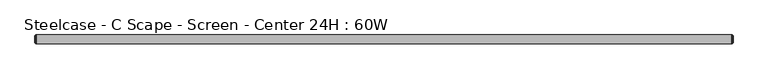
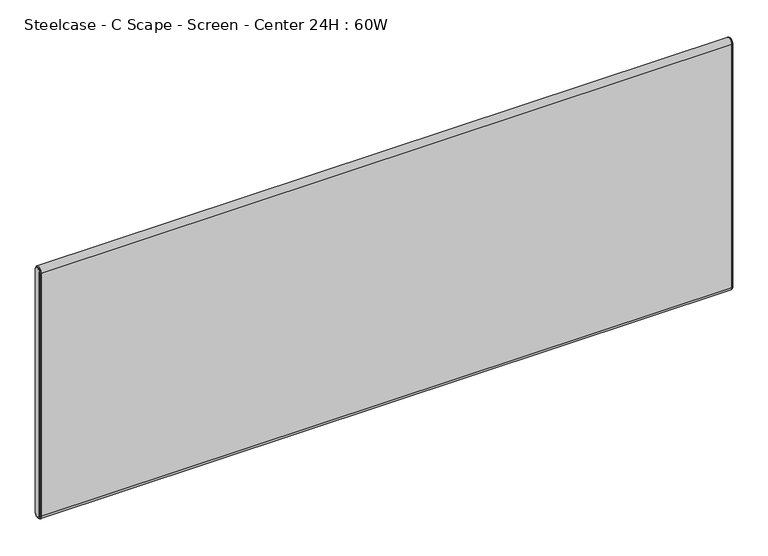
"""IFC4 building model written with IfcOpenShell, lengths in millimetres: furniture geometry, Steelcase - C Scape - Screen - Center 24H : 60W."""

from ifc_helpers import new_model, si_unit, point, frame, frame_2d, origin, place, context, project, spatial, polyline, circle_curve, ellipse_curve, trimmed, segment, composite_curve, outline, extrude, source, transform, mapped, element, save
from ifc_brep_helpers import plane_surface, cylinder_surface, revolved_surface, advanced_brep


def steelcase_c_scape_screen_center_24h_60w_48d44867(model_context):
    return source(origin(), model_context, "Body", "SolidModel", [
        advanced_brep(
        [(1520.4486613, -9.525, 1298.067), (1520.4486613, 9.525, 1298.067), (1520.4486613, 9.525, 732.9169758), (1520.4486613, -9.525, 732.9169758), (1523.2426613, 7.4929583, 1298.067), (1523.2426613, -7.4929583, 1298.067), (1523.2426613, -7.4929583, 732.9169758), (1523.2426613, 7.4929583, 732.9169758), (1522.7346545, -8.0009651, 1298.067), (1522.7346545, 8.0009651, 1298.067), (1521.4646613, 8.0009651, 1298.067), (1521.4646613, -8.0009651, 1298.067), (1521.4646613, -8.8204932, 1298.067), (1521.4646613, 8.8204932, 1298.067), (1521.4646613, -8.0009651, 732.9169758), (1522.7346545, -8.0009651, 732.9169758), (1521.4646613, -8.8204932, 732.9169758), (1521.4646613, 8.0009651, 732.9169758), (1522.7346545, 8.0009651, 732.9169758), (1521.4646613, 8.8204932, 732.9169758)],
        [
            (0, 1, circle_curve(frame((1520.4486613, 0.0, 1298.067), z_axis=(-1.0, 0.0, 0.0), x_axis=(0.0, 1.0, 0.0)), 9.525)),
            (1, 2),
            (2, 3, circle_curve(frame((1520.4486613, 0.0, 732.9169758), z_axis=(-1.0, 0.0, 0.0), x_axis=(0.0, -1.0, 0.0)), 9.525)),
            (3, 0),
            (4, 5, circle_curve(frame((1523.2426613, 0.0, 1298.067), z_axis=(1.0, 0.0, 0.0), x_axis=(0.0, 1.0, 0.0)), 7.4929583)),
            (5, 6),
            (6, 7, circle_curve(frame((1523.2426613, 0.0, 732.9169758), z_axis=(1.0, 0.0, 0.0), x_axis=(0.0, -1.0, 0.0)), 7.4929583)),
            (7, 4),
            (8, 9, circle_curve(frame((1522.7346545, 0.0, 1298.067), z_axis=(-1.0, 0.0, 0.0), x_axis=(0.0, 1.0, 0.0)), 8.0009651)),
            (9, 10),
            (10, 11, circle_curve(frame((1521.4646613, 0.0, 1298.067), z_axis=(1.0, 0.0, 0.0), x_axis=(0.0, 1.0, 0.0)), 8.0009651)),
            (11, 8),
            (8, 5, circle_curve(frame((1522.7346545, -7.4929583, 1298.067), z_axis=(0.0, 0.0, 1.0), x_axis=(0.0, -1.0, 0.0)), 0.5080068)),
            (4, 9, circle_curve(frame((1522.7346545, 7.4929583, 1298.067), z_axis=(0.0, 0.0, 1.0), x_axis=(0.0, 1.0, 0.0)), 0.5080068)),
            (12, 13, circle_curve(frame((1521.4646613, 0.0, 1298.067), z_axis=(-1.0, 0.0, 0.0), x_axis=(0.0, 1.0, 0.0)), 8.8204932)),
            (13, 1, circle_curve(frame((1520.3806211, 8.3420139, 1298.067), z_axis=(0.0, 0.0, 1.0), x_axis=(0.0, 1.0, 0.0)), 1.1849411)),
            (0, 12, circle_curve(frame((1520.3806211, -8.3420139, 1298.067), z_axis=(0.0, 0.0, 1.0), x_axis=(0.0, -1.0, 0.0)), 1.1849411)),
            (11, 14),
            (14, 15),
            (15, 8),
            (15, 6, circle_curve(frame((1522.7346545, -7.4929583, 732.9169758), z_axis=(0.0, 0.0, 1.0), x_axis=(0.0, -1.0, 0.0)), 0.5080068)),
            (3, 16, circle_curve(frame((1520.3806211, -8.3420139, 732.9169758), z_axis=(0.0, 0.0, 1.0), x_axis=(0.0, -1.0, 0.0)), 1.1849411)),
            (16, 12),
            (14, 17, circle_curve(frame((1521.4646613, 0.0, 732.9169758), z_axis=(1.0, 0.0, 0.0), x_axis=(0.0, -1.0, 0.0)), 8.0009651)),
            (17, 18),
            (18, 15, circle_curve(frame((1522.7346545, 0.0, 732.9169758), z_axis=(-1.0, 0.0, 0.0), x_axis=(0.0, -1.0, 0.0)), 8.0009651)),
            (18, 7, circle_curve(frame((1522.7346545, 7.4929583, 732.9169758), z_axis=(0.0, 0.0, -1.0), x_axis=(0.0, 1.0, 0.0)), 0.5080068)),
            (2, 19, circle_curve(frame((1520.3806211, 8.3420139, 732.9169758), z_axis=(0.0, 0.0, -1.0), x_axis=(0.0, 1.0, 0.0)), 1.1849411)),
            (19, 16, circle_curve(frame((1521.4646613, 0.0, 732.9169758), z_axis=(-1.0, 0.0, 0.0), x_axis=(0.0, -1.0, 0.0)), 8.8204932)),
            (9, 18),
            (17, 10),
            (13, 19),
        ],
        [
            plane_surface(frame((1520.4486613, -6.3509705, 1298.067), z_axis=(-1.0, 0.0, 0.0), x_axis=(0.0, 0.0, 1.0))),
            plane_surface(frame((1523.2426613, -6.3509705, 1298.067), z_axis=(1.0, 0.0, 0.0), x_axis=(0.0, 0.0, -1.0))),
            cylinder_surface(frame((1520.4486613, 0.0, 1298.067), z_axis=(1.0, 0.0, 0.0), x_axis=(0.0, 1.0, 0.0)), 8.0009651),
            revolved_surface(trimmed(ellipse_curve(frame((1522.7346545, 7.4929583, 1298.067), z_axis=(0.0, 0.0, -1.0), x_axis=(0.0, 1.0, 0.0)), 0.5080068, 0.5080068), [point((1522.7346545, 8.0009651, 1298.067))], [point((1523.2426613, 7.4929583, 1298.067))], True, "CARTESIAN"), (1520.4486613, 0.0, 1298.067), (1.0, 0.0, 0.0)),
            revolved_surface(trimmed(ellipse_curve(frame((1520.3806211, 8.3420139, 1298.067), z_axis=(0.0, 0.0, -1.0), x_axis=(0.0, 1.0, 0.0)), 1.1849411, 1.1849411), [point((1520.4486613, 9.525, 1298.067))], [point((1521.4646613, 8.8204932, 1298.067))], True, "CARTESIAN"), (1520.4486613, 0.0, 1298.067), (1.0, 0.0, 0.0)),
            plane_surface(frame((1521.4646613, -8.0009651, 1298.067), z_axis=(0.0, -1.0, 0.0), x_axis=(0.0, 0.0, -1.0))),
            cylinder_surface(frame((1522.7346545, -7.4929583, 1298.067), z_axis=(0.0, 0.0, 1.0), x_axis=(0.0, -1.0, 0.0)), 0.5080068),
            cylinder_surface(frame((1520.3806211, -8.3420139, 1298.067), z_axis=(0.0, 0.0, 1.0), x_axis=(0.0, -1.0, 0.0)), 1.1849411),
            cylinder_surface(frame((1520.4486613, 0.0, 732.9169758), z_axis=(1.0, 0.0, 0.0), x_axis=(0.0, -1.0, 0.0)), 8.0009651),
            revolved_surface(trimmed(ellipse_curve(frame((1522.7346545, -7.4929583, 732.9169758), z_axis=(0.0, 0.0, 1.0), x_axis=(0.0, -1.0, 0.0)), 0.5080068, 0.5080068), [point((1522.7346545, -8.0009651, 732.9169758))], [point((1523.2426613, -7.4929583, 732.9169758))], True, "CARTESIAN"), (1520.4486613, 0.0, 732.9169758), (1.0, 0.0, 0.0)),
            revolved_surface(trimmed(ellipse_curve(frame((1520.3806211, -8.3420139, 732.9169758), z_axis=(0.0, 0.0, 1.0), x_axis=(0.0, -1.0, 0.0)), 1.1849411, 1.1849411), [point((1520.4486613, -9.525, 732.9169758))], [point((1521.4646613, -8.8204932, 732.9169758))], True, "CARTESIAN"), (1520.4486613, 0.0, 732.9169758), (1.0, 0.0, 0.0)),
            plane_surface(frame((1521.4646613, 8.0009651, 732.9169758), z_axis=(0.0, 1.0, 0.0), x_axis=(0.0, 0.0, 1.0))),
            cylinder_surface(frame((1522.7346545, 7.4929583, 732.9169758), z_axis=(0.0, 0.0, -1.0), x_axis=(0.0, 1.0, 0.0)), 0.5080068),
            cylinder_surface(frame((1520.3806211, 8.3420139, 732.9169758), z_axis=(0.0, 0.0, -1.0), x_axis=(0.0, 1.0, 0.0)), 1.1849411),
            plane_surface(frame((1521.4646613, 8.8204932, 732.9169758), z_axis=(1.0, 0.0, 0.0), x_axis=(0.0, 0.0, 1.0))),
        ],
        [
            (0, [[1, 2, 3, 4]]),
            (1, [[5, 6, 7, 8]]),
            (2, [[9, 10, 11, 12]]),
            (3, [[-9, 13, -5, 14]]),
            (4, [[15, 16, -1, 17]]),
            (5, [[-12, 18, 19, 20]]),
            (6, [[-13, -20, 21, -6]]),
            (7, [[-17, -4, 22, 23]]),
            (8, [[-19, 24, 25, 26]]),
            (9, [[-21, -26, 27, -7]]),
            (10, [[-22, -3, 28, 29]]),
            (11, [[-10, 30, -25, 31]]),
            (12, [[-14, -8, -27, -30]]),
            (13, [[-16, 32, -28, -2]]),
            (14, [[-15, -23, -29, -32], [-11, -31, -24, -18]]),
        ],
    ),
        advanced_brep(
        [(2.7940155, 9.525, 1298.067), (2.7940155, -9.525, 1298.067), (2.7940155, -9.525, 732.917), (2.7940155, 9.525, 732.917), (0.0, -7.4929583, 1298.067), (0.0, 7.4929583, 1298.067), (0.0, 7.4929583, 732.917), (0.0, -7.4929583, 732.917), (1.778, 8.8204932, 1298.067), (1.778, -8.8204932, 1298.067), (0.5080068, -8.0009651, 1298.067), (0.5080068, 8.0009651, 1298.067), (1.778, -8.0009651, 1298.067), (1.778, 8.0009651, 1298.067), (1.778, -8.8204932, 732.917), (0.5080068, -8.0009651, 732.917), (1.778, -8.0009651, 732.917), (1.778, 8.8204932, 732.917), (0.5080068, 8.0009651, 732.917), (1.778, 8.0009651, 732.917)],
        [
            (0, 1, circle_curve(frame((2.7940155, 0.0, 1298.067), z_axis=(1.0, 0.0, 0.0), x_axis=(0.0, 1.0, 0.0)), 9.525)),
            (1, 2),
            (2, 3, circle_curve(frame((2.7940155, 0.0, 732.917), z_axis=(1.0, 0.0, 0.0), x_axis=(0.0, -1.0, 0.0)), 9.525)),
            (3, 0),
            (4, 5, circle_curve(frame((0.0, 0.0, 1298.067), z_axis=(-1.0, 0.0, 0.0), x_axis=(0.0, 1.0, 0.0)), 7.4929583)),
            (5, 6),
            (6, 7, circle_curve(frame((0.0, 0.0, 732.917), z_axis=(-1.0, 0.0, 0.0), x_axis=(0.0, -1.0, 0.0)), 7.4929583)),
            (7, 4),
            (0, 8, circle_curve(frame((2.8620402, 8.3420139, 1298.067), z_axis=(0.0, 0.0, 1.0), x_axis=(0.0, -1.0, 0.0)), 1.1849411)),
            (8, 9, circle_curve(frame((1.778, 0.0, 1298.067), z_axis=(1.0, 0.0, 0.0), x_axis=(0.0, 1.0, 0.0)), 8.8204932)),
            (9, 1, circle_curve(frame((2.8620402, -8.3420139, 1298.067), z_axis=(0.0, 0.0, 1.0), x_axis=(0.0, 1.0, 0.0)), 1.1849411)),
            (10, 11, circle_curve(frame((0.5080068, 0.0, 1298.067), z_axis=(-1.0, 0.0, 0.0), x_axis=(0.0, 1.0, 0.0)), 8.0009651)),
            (11, 5, circle_curve(frame((0.5080068, 7.4929583, 1298.067), z_axis=(0.0, 0.0, 1.0), x_axis=(0.0, -1.0, 0.0)), 0.5080068)),
            (4, 10, circle_curve(frame((0.5080068, -7.4929583, 1298.067), z_axis=(0.0, 0.0, 1.0), x_axis=(0.0, 1.0, 0.0)), 0.5080068)),
            (10, 12),
            (12, 13, circle_curve(frame((1.778, 0.0, 1298.067), z_axis=(-1.0, 0.0, 0.0), x_axis=(0.0, 1.0, 0.0)), 8.0009651)),
            (13, 11),
            (9, 14),
            (14, 2, circle_curve(frame((2.8620402, -8.3420139, 732.917), z_axis=(0.0, 0.0, 1.0), x_axis=(0.0, 1.0, 0.0)), 1.1849411)),
            (7, 15, circle_curve(frame((0.5080068, -7.4929583, 732.917), z_axis=(0.0, 0.0, 1.0), x_axis=(0.0, 1.0, 0.0)), 0.5080068)),
            (15, 10),
            (15, 16),
            (16, 12),
            (14, 17, circle_curve(frame((1.778, 0.0, 732.917), z_axis=(1.0, 0.0, 0.0), x_axis=(0.0, -1.0, 0.0)), 8.8204932)),
            (17, 3, circle_curve(frame((2.8620402, 8.3420139, 732.917), z_axis=(0.0, 0.0, -1.0), x_axis=(0.0, -1.0, 0.0)), 1.1849411)),
            (6, 18, circle_curve(frame((0.5080068, 7.4929583, 732.917), z_axis=(0.0, 0.0, -1.0), x_axis=(0.0, -1.0, 0.0)), 0.5080068)),
            (18, 15, circle_curve(frame((0.5080068, 0.0, 732.917), z_axis=(-1.0, 0.0, 0.0), x_axis=(0.0, -1.0, 0.0)), 8.0009651)),
            (18, 19),
            (19, 16, circle_curve(frame((1.778, 0.0, 732.917), z_axis=(-1.0, 0.0, 0.0), x_axis=(0.0, -1.0, 0.0)), 8.0009651)),
            (8, 17),
            (19, 13),
            (11, 18),
        ],
        [
            plane_surface(frame((2.7940155, -6.3509705, 1298.067), z_axis=(1.0, 0.0, 0.0), x_axis=(0.0, 0.0, -1.0))),
            plane_surface(frame((0.0, -6.3509705, 1298.067), z_axis=(-1.0, 0.0, 0.0), x_axis=(0.0, 0.0, 1.0))),
            revolved_surface(trimmed(ellipse_curve(frame((2.8620402, 8.3420139, 1298.067), z_axis=(0.0, 0.0, -1.0), x_axis=(0.0, -1.0, 0.0)), 1.1849411, 1.1849411), [point((1.778, 8.8204932, 1298.067))], [point((2.794, 9.525, 1298.067))], True, "CARTESIAN"), (2.794, 0.0, 1298.067), (1.0, 0.0, 0.0)),
            revolved_surface(trimmed(ellipse_curve(frame((0.5080068, 7.4929583, 1298.067), z_axis=(0.0, 0.0, -1.0), x_axis=(0.0, -1.0, 0.0)), 0.5080068, 0.5080068), [point((0.0, 7.4929583, 1298.067))], [point((0.5080068, 8.0009651, 1298.067))], True, "CARTESIAN"), (2.794, 0.0, 1298.067), (1.0, 0.0, 0.0)),
            cylinder_surface(frame((2.794, 0.0, 1298.067), z_axis=(1.0, 0.0, 0.0), x_axis=(0.0, 1.0, 0.0)), 8.0009651),
            cylinder_surface(frame((2.8620402, -8.3420139, 1298.067), z_axis=(0.0, 0.0, 1.0), x_axis=(0.0, 1.0, 0.0)), 1.1849411),
            cylinder_surface(frame((0.5080068, -7.4929583, 1298.067), z_axis=(0.0, 0.0, 1.0), x_axis=(0.0, 1.0, 0.0)), 0.5080068),
            plane_surface(frame((0.5080068, -8.0009651, 1298.067), z_axis=(0.0, -1.0, 0.0), x_axis=(0.0, 0.0, -1.0))),
            revolved_surface(trimmed(ellipse_curve(frame((2.8620402, -8.3420139, 732.917), z_axis=(0.0, 0.0, 1.0), x_axis=(0.0, 1.0, 0.0)), 1.1849411, 1.1849411), [point((1.778, -8.8204932, 732.917))], [point((2.794, -9.525, 732.917))], True, "CARTESIAN"), (2.794, 0.0, 732.917), (1.0, 0.0, 0.0)),
            revolved_surface(trimmed(ellipse_curve(frame((0.5080068, -7.4929583, 732.917), z_axis=(0.0, 0.0, 1.0), x_axis=(0.0, 1.0, 0.0)), 0.5080068, 0.5080068), [point((0.0, -7.4929583, 732.917))], [point((0.5080068, -8.0009651, 732.917))], True, "CARTESIAN"), (2.794, 0.0, 732.917), (1.0, 0.0, 0.0)),
            cylinder_surface(frame((2.794, 0.0, 732.917), z_axis=(1.0, 0.0, 0.0), x_axis=(0.0, -1.0, 0.0)), 8.0009651),
            plane_surface(frame((1.778, 8.0009651, 732.917), z_axis=(-1.0, 0.0, 0.0), x_axis=(0.0, 0.0, 1.0))),
            cylinder_surface(frame((2.8620402, 8.3420139, 732.917), z_axis=(0.0, 0.0, -1.0), x_axis=(0.0, -1.0, 0.0)), 1.1849411),
            cylinder_surface(frame((0.5080068, 7.4929583, 732.917), z_axis=(0.0, 0.0, -1.0), x_axis=(0.0, -1.0, 0.0)), 0.5080068),
            plane_surface(frame((0.5080068, 8.0009651, 732.917), z_axis=(0.0, 1.0, 0.0), x_axis=(0.0, 0.0, 1.0))),
        ],
        [
            (0, [[1, 2, 3, 4]]),
            (1, [[5, 6, 7, 8]]),
            (2, [[-1, 9, 10, 11]]),
            (3, [[12, 13, -5, 14]]),
            (4, [[-12, 15, 16, 17]]),
            (5, [[-11, 18, 19, -2]]),
            (6, [[-14, -8, 20, 21]]),
            (7, [[-15, -21, 22, 23]]),
            (8, [[-19, 24, 25, -3]]),
            (9, [[-20, -7, 26, 27]]),
            (10, [[-22, -27, 28, 29]]),
            (11, [[-10, 30, -24, -18], [-16, -23, -29, 31]]),
            (12, [[-9, -4, -25, -30]]),
            (13, [[-13, 32, -26, -6]]),
            (14, [[-17, -31, -28, -32]]),
        ],
    ),
        extrude(outline(composite_curve([segment(trimmed(circle_curve(frame_2d((0.0, 1298.067)), 9.525), [point((-9.525, 1298.067))], [point((9.525, 1298.067))], False, "CARTESIAN"), True, "CONTINUOUS"), segment(polyline([(9.525, 1298.067), (9.525, 732.917)]), True, "CONTINUOUS"), segment(trimmed(circle_curve(frame_2d((0.0, 732.917)), 9.525), [point((9.525, 732.917))], [point((-9.525, 732.917))], False, "CARTESIAN"), True, "CONTINUOUS"), segment(polyline([(-9.525, 732.917), (-9.525, 1298.067)]), True, "CONTINUOUS")], self_intersect=False)), frame((2.794, 0.0, 0.0), z_axis=(1.0, 0.0, 0.0), x_axis=(0.0, 1.0, 0.0)), (0.0, 0.0, 1.0), 1517.6546613),
    ])


if __name__ == "__main__":
    model = new_model("IFC4")
    model_context = context("Model", 3, world=origin())
    ifc_project = project(units=[si_unit("LENGTHUNIT", "METRE", prefix="MILLI")], contexts=[model_context])
    site = spatial("IfcSite", under=ifc_project)
    building = spatial("IfcBuilding", under=site)
    placement = place(None, origin())
    steelcase_c_scape_screen_center_24h_60w_shape = steelcase_c_scape_screen_center_24h_60w_48d44867(model_context)
    element("IfcFurniture", 1, ObjectType="Steelcase - C Scape - Screen - Center 24H : 60W", at=placement, inside=building, context=model_context, shape_type="MappedRepresentation", body=[
        mapped(steelcase_c_scape_screen_center_24h_60w_shape, transform((0.0, 0.0, 0.0), x_axis=(1.0, 0.0, 0.0), y_axis=(0.0, 1.0, 0.0), z_axis=(0.0, 0.0, 1.0))),
    ])
    save(model, "model.ifc")
